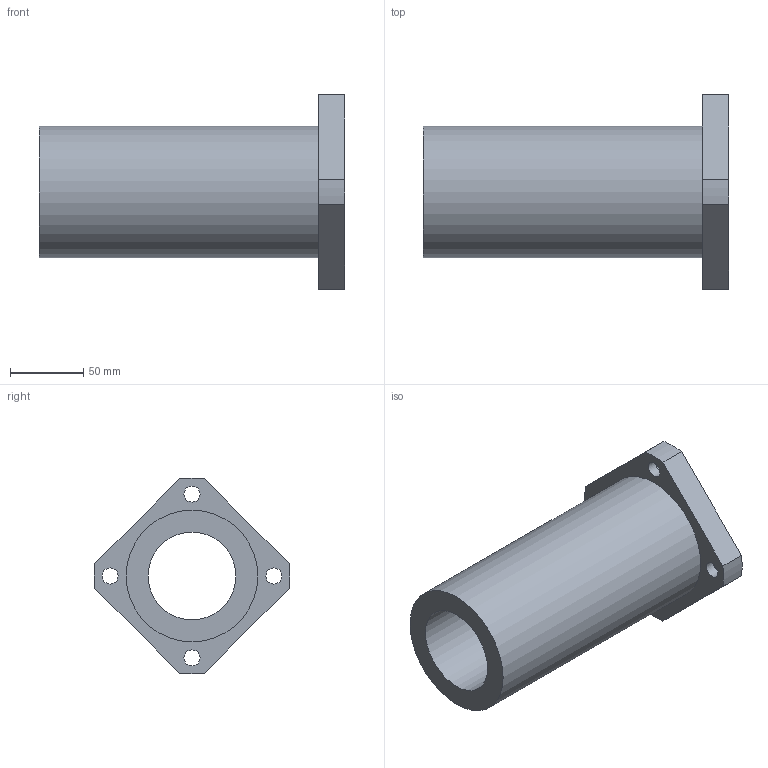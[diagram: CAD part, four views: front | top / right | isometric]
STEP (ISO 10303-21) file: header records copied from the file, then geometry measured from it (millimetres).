
FILE_DESCRIPTION(/* description */ ('Unknown'),/* implementation_level */ '2;1');
FILE_NAME(/* name */ 'LMK60LUU',/* time_stamp */ '2025-02-04T10:51:12+08:00',/* author */ ('Unknown'),/* organization */ ('Unknown'),/* preprocessor_version */ 'ST-DEVELOPER v18.102',/* originating_system */ 'Solid Edge',/* authorisation */ 'Unknown');
FILE_SCHEMA (('AUTOMOTIVE_DESIGN {1 0 10303 214 3 1 1}'));
Length unit declared in the file: millimetre
Products named in the file (1): LMK60LUU
Bounding box: 209 x 133.88 x 133.88 mm (x, y, z)
Volume: 808949.7 mm3; surface area: 119382 mm2
Topology: 1 solids, 1 shells, 25 faces, 54 edges, 36 vertices
Faces by surface type: cylinder 14, plane 11
Full cylindrical faces by diameter (mm): 11 x4, 17 x4, 60 x1, 90 x1
Entity records: 696 total; most frequent: DIRECTION 124, CARTESIAN_POINT 106, ORIENTED_EDGE 88, AXIS2_PLACEMENT_3D 54, EDGE_LOOP 50, FACE_BOUND 50, EDGE_CURVE 44, VERTEX_POINT 36
